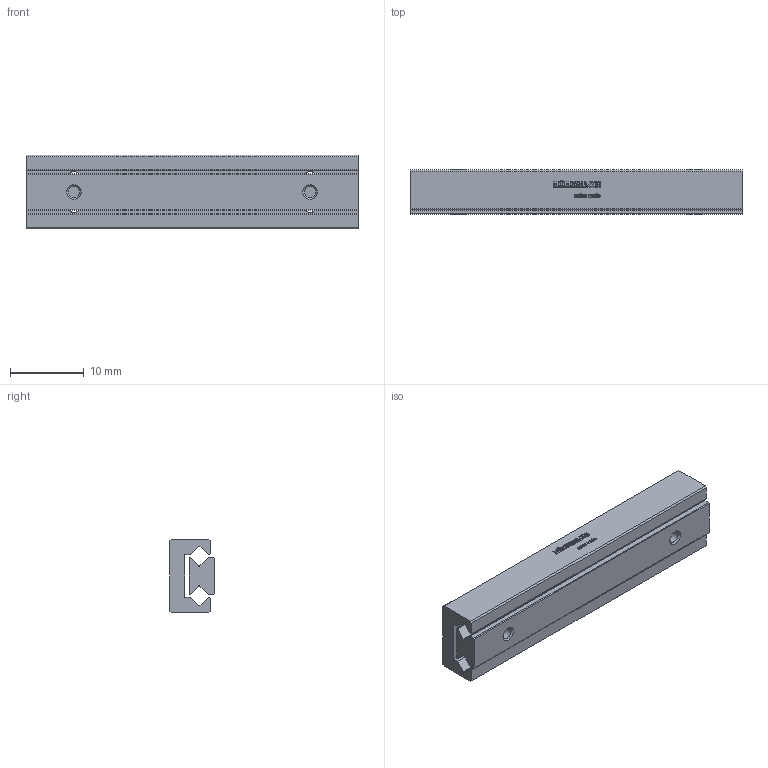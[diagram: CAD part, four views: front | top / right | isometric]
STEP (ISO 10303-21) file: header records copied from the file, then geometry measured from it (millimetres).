
FILE_DESCRIPTION(/* description */ ('STEP AP214'),/* implementation_level */ '2;1');
FILE_NAME(/* name */ 'MSR 5-45.35(0)',/* time_stamp */ '2025-04-16T17:18:42+02:00',/* author */ ('License CC BY-ND 4.0'),/* organization */ ('CADENAS'),/* preprocessor_version */ 'ST-DEVELOPER v19.3',/* originating_system */ 'PARTsolutions',/* authorisation */ ' ');
FILE_SCHEMA (('AUTOMOTIVE_DESIGN {1 0 10303 214 3 1 1}'));
Length unit declared in the file: millimetre
Products named in the file (3): MSR 5-45.35(0); MSR 5-45.35_1; MSR 5-45.35_2
Assembly tree (2 placements, depth 2):
  MSR 5-45.35(0)
    MSR 5-45.35_1
    MSR 5-45.35_2
Bounding box: 45 x 6 x 10 mm (x, y, z)
Volume: 2028.4 mm3; surface area: 2754.1 mm2
Topology: 2 solids, 2 shells, 521 faces, 1466 edges, 976 vertices
Faces by surface type: cylinder 302, plane 211, cone 8
Full cylindrical faces by diameter (mm): 1.567 x6
Entity records: 17053 total; most frequent: DIRECTION 3108, CARTESIAN_POINT 2944, ORIENTED_EDGE 2896, EDGE_CURVE 1448, AXIS2_PLACEMENT_3D 1136, VERTEX_POINT 972, LINE 836, VECTOR 836
